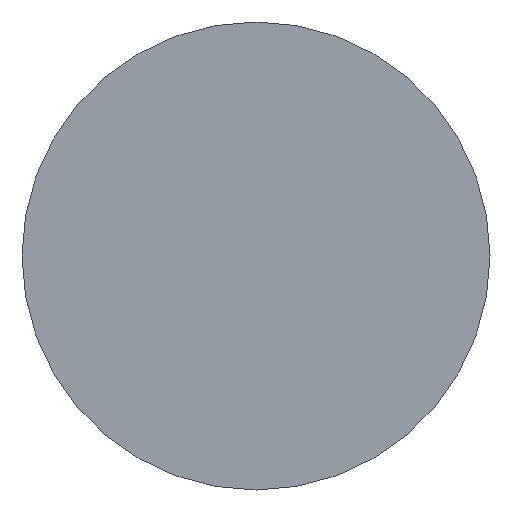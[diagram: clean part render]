
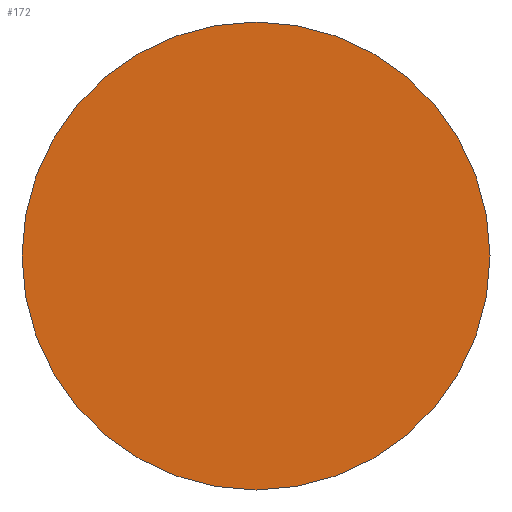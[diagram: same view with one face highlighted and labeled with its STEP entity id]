
A CAD part, left-side view. The second image highlights one B-rep face of the part: STEP entity #172.
In plain terms, the highlighted planar face has unit normal (-1, 0, 0).
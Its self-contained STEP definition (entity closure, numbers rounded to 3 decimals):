
#1 = ORIENTED_EDGE ( 'NONE', *, *, #43, .F. ) ;
#9 = ORIENTED_EDGE ( 'NONE', *, *, #218, .F. ) ;
#30 = EDGE_LOOP ( 'NONE', ( #1, #9 ) ) ;
#35 = CARTESIAN_POINT ( 'NONE',  ( 0., 0., 0. ) ) ;
#43 = EDGE_CURVE ( 'NONE', #237, #182, #139, .T. ) ;
#59 = AXIS2_PLACEMENT_3D ( 'NONE', #35, #260, #153 ) ;
#71 = AXIS2_PLACEMENT_3D ( 'NONE', #253, #77, #267 ) ;
#77 = DIRECTION ( 'NONE',  ( -1., 0., 0. ) ) ;
#116 = DIRECTION ( 'NONE',  ( 0., 1., 0. ) ) ;
#139 = CIRCLE ( 'NONE', #190, 8. ) ;
#153 = DIRECTION ( 'NONE',  ( 0., 1., 0. ) ) ;
#155 = FACE_OUTER_BOUND ( 'NONE', #30, .T. ) ;
#163 = DIRECTION ( 'NONE',  ( 1., 0., 0. ) ) ;
#172 = ADVANCED_FACE ( 'NONE', ( #155 ), #272, .T. ) ;
#182 = VERTEX_POINT ( 'NONE', #262 ) ;
#190 = AXIS2_PLACEMENT_3D ( 'NONE', #242, #163, #116 ) ;
#212 = CIRCLE ( 'NONE', #59, 8. ) ;
#218 = EDGE_CURVE ( 'NONE', #182, #237, #212, .T. ) ;
#237 = VERTEX_POINT ( 'NONE', #259 ) ;
#242 = CARTESIAN_POINT ( 'NONE',  ( 0., 0., 0. ) ) ;
#253 = CARTESIAN_POINT ( 'NONE',  ( 0., 0., 0. ) ) ;
#259 = CARTESIAN_POINT ( 'NONE',  ( 0., 8., 0. ) ) ;
#260 = DIRECTION ( 'NONE',  ( 1., 0., 0. ) ) ;
#262 = CARTESIAN_POINT ( 'NONE',  ( 0., -8., 0. ) ) ;
#267 = DIRECTION ( 'NONE',  ( 0., -1., 0. ) ) ;
#272 = PLANE ( 'NONE',  #71 ) ;
